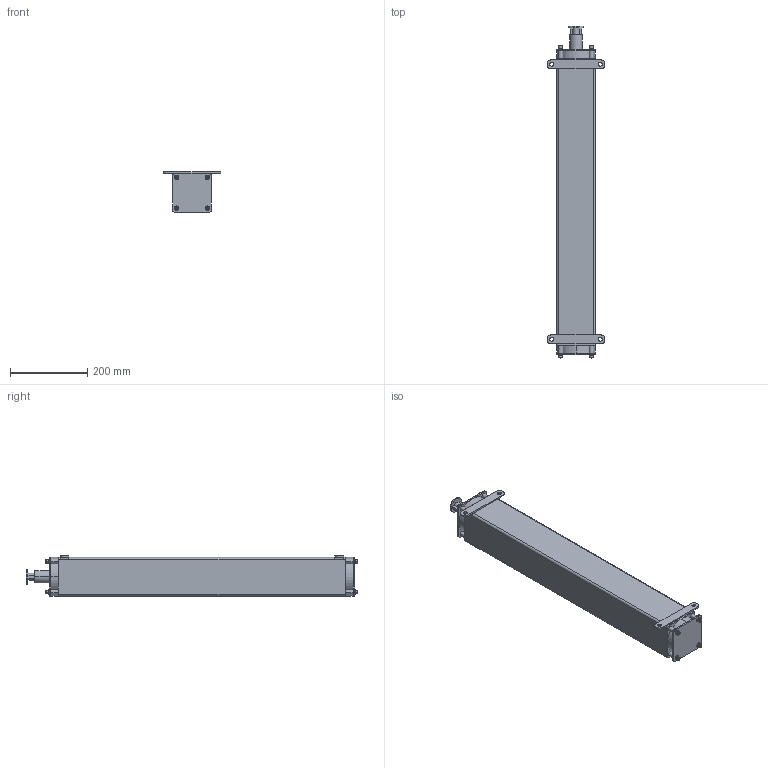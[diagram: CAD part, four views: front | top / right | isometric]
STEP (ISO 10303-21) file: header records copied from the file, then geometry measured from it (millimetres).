
FILE_DESCRIPTION((''),'2;1');
FILE_NAME('EFB-EX_ASM','2021-08-19T10:28:39',('18720616900'),(''),'CREO PARAMETRIC BY PTC INC, 2019010','CREO PARAMETRIC BY PTC INC, 2019010','');
FILE_SCHEMA(('CONFIG_CONTROL_DESIGN'));
Length unit declared in the file: millimetre
Products named in the file (6): EFB-EX-115; M6-50-0001; M6-1--00; M6-1-00; 0001_ASM; EFB-EX_ASM
Assembly tree (12 placements, depth 3):
  EFB-EX_ASM
    EFB-EX-115
    0001_ASM  x8
      M6-50-0001
      M6-1--00
      M6-1-00
Bounding box: 150 x 859.5 x 104 mm (x, y, z)
Volume: 1023762.3 mm3; surface area: 651050.4 mm2
Topology: 25 solids, 33 shells, 1249 faces, 3236 edges, 2074 vertices
Faces by surface type: cone 488, plane 265, bspline 264, cylinder 182, torus 50
Entity records: 19619 total; most frequent: CARTESIAN_POINT 10839, ORIENTED_EDGE 1806, DIRECTION 1744, EDGE_CURVE 919, AXIS2_PLACEMENT_3D 655, VERTEX_POINT 597, VECTOR 434, LINE 434
